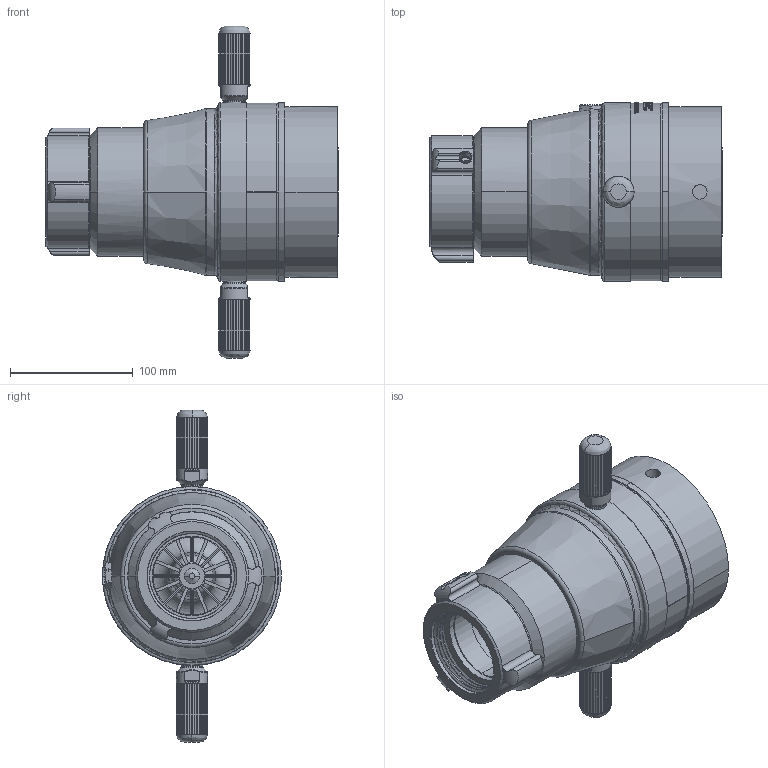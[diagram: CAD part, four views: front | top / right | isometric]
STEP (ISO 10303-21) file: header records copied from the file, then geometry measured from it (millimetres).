
FILE_DESCRIPTION((''),'2;1');
FILE_NAME('5160_2_5_SWVL_11','2019-08-12T',('sobrien2'),(''),'CREO PARAMETRIC BY PTC INC, 2015290','CREO PARAMETRIC BY PTC INC, 2015290','');
FILE_SCHEMA(('CONFIG_CONTROL_DESIGN'));
Length unit declared in the file: inch
Products named in the file (1): 5160_2_5_SWVL_11
Bounding box: 239.08 x 146.05 x 271.02 mm (x, y, z)
Surface area: 336652 mm2 (no closed solid volume)
Topology: 0 solids, 54 shells, 844 faces, 3385 edges, 2562 vertices
Faces by surface type: cylinder 386, plane 173, torus 124, bspline 81, cone 80
Entity records: 48372 total; most frequent: CARTESIAN_POINT 21250, DIRECTION 5706, ORIENTED_EDGE 5076, EDGE_CURVE 3385, VERTEX_POINT 2562, AXIS2_PLACEMENT_3D 2326, CIRCLE 1563, VECTOR 1054
